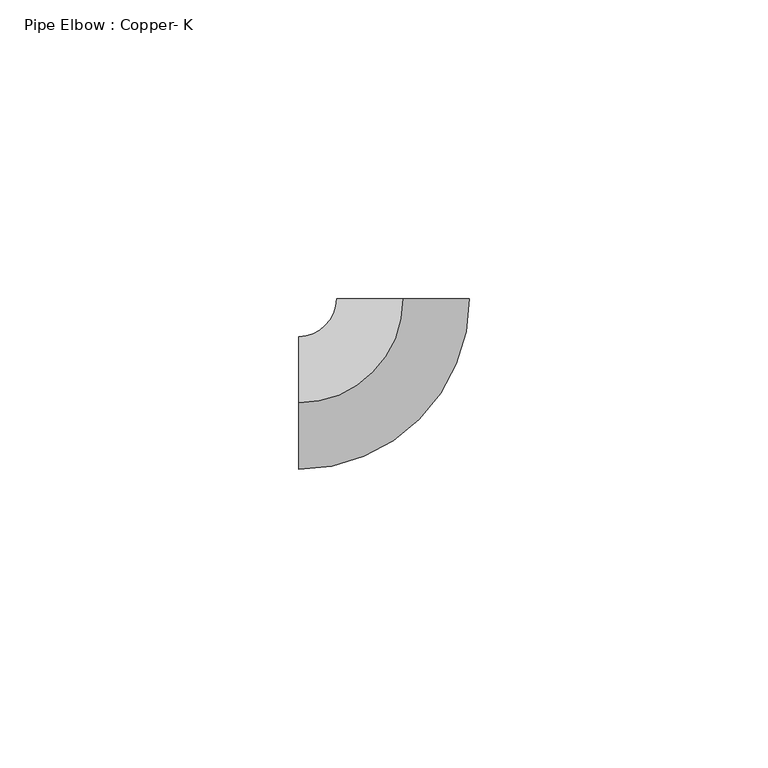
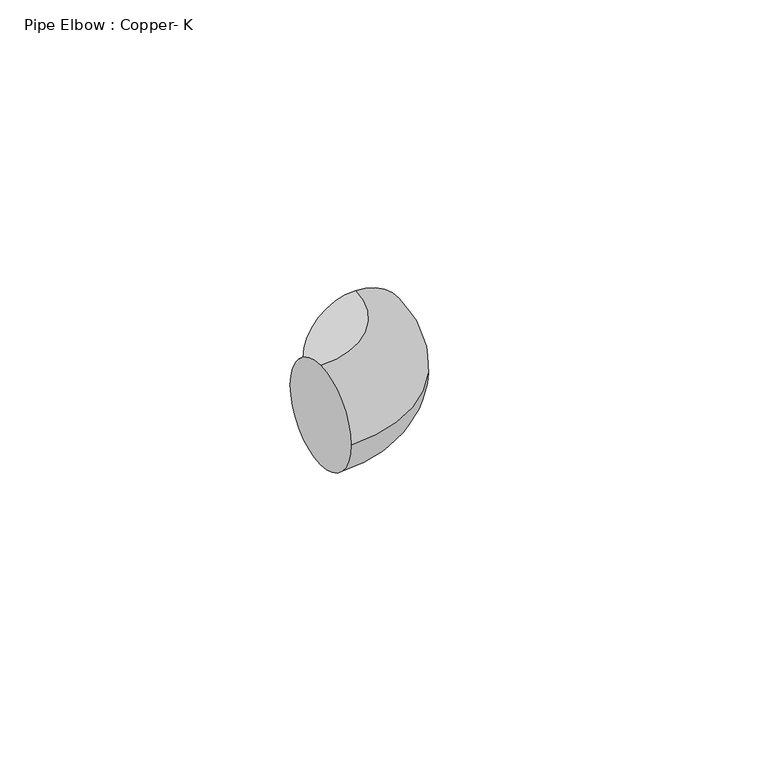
"""IFC4 building model written with IfcOpenShell, lengths in millimetres: pipe fitting geometry, Pipe Elbow : Copper- K."""

from ifc_helpers import new_model, si_unit, point, frame, origin, place, context, project, spatial, circle_curve, ellipse_curve, trimmed, source, transform, mapped, element, save
from ifc_brep_helpers import plane_surface, revolved_surface, advanced_brep


def pipe_elbow_copper_k_4cfe590c(model_context):
    return source(origin(), model_context, "Body", "AdvancedBrep", [
        advanced_brep(
        [(-17.4623735, 0.0, 11.1125), (-17.4623735, 11.1125, 0.0), (-17.4623735, 0.0, -11.1125), (-17.4623735, -11.1125, 0.0), (0.0001265, 17.4623735, 11.1125), (11.1126265, 17.462293, 0.0), (0.0001265, 17.4623735, -11.1125), (-11.1123735, 17.462454, 0.0)],
        [
            (0, 1, circle_curve(frame((-17.4623735, 0.0, 0.0), z_axis=(-1.0, 0.0, 0.0), x_axis=(0.0, 1.0, 0.0)), 11.1125)),
            (1, 2, circle_curve(frame((-17.4623735, 0.0, 0.0), z_axis=(-1.0, 0.0, 0.0), x_axis=(0.0, 1.0, 0.0)), 11.1125)),
            (2, 3, circle_curve(frame((-17.4623735, 0.0, 0.0), z_axis=(-1.0, 0.0, 0.0), x_axis=(0.0, 1.0, 0.0)), 11.1125)),
            (3, 0, circle_curve(frame((-17.4623735, 0.0, 0.0), z_axis=(-1.0, 0.0, 0.0), x_axis=(0.0, 1.0, 0.0)), 11.1125)),
            (4, 5, circle_curve(frame((0.0001265, 17.4623735, 0.0), z_axis=(7.242448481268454e-06, 0.9999999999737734, 0.0), x_axis=(-0.9999999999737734, 7.242448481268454e-06, 0.0)), 11.1125)),
            (5, 6, circle_curve(frame((0.0001265, 17.4623735, 0.0), z_axis=(7.242448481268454e-06, 0.9999999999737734, 0.0), x_axis=(-0.9999999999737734, 7.242448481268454e-06, 0.0)), 11.1125)),
            (6, 7, circle_curve(frame((0.0001265, 17.4623735, 0.0), z_axis=(7.242448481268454e-06, 0.9999999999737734, 0.0), x_axis=(-0.9999999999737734, 7.242448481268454e-06, 0.0)), 11.1125)),
            (7, 4, circle_curve(frame((0.0001265, 17.4623735, 0.0), z_axis=(7.242448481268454e-06, 0.9999999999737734, 0.0), x_axis=(-0.9999999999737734, 7.242448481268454e-06, 0.0)), 11.1125)),
            (7, 1, circle_curve(frame((-17.4623735, 17.4625, 0.0), z_axis=(0.0, 0.0, -1.0), x_axis=(0.0, -1.0, 0.0)), 6.35)),
            (0, 4, circle_curve(frame((-17.4623735, 17.4625, 11.1125), z_axis=(0.0, 0.0, 1.0), x_axis=(0.0, -1.0, 0.0)), 17.4625)),
            (6, 2, circle_curve(frame((-17.4623735, 17.4625, -11.1125), z_axis=(0.0, 0.0, -1.0), x_axis=(0.0, -1.0, 0.0)), 17.4625)),
            (5, 3, circle_curve(frame((-17.4623735, 17.4625, 0.0), z_axis=(0.0, 0.0, -1.0), x_axis=(0.0, -1.0, 0.0)), 28.575)),
        ],
        [
            plane_surface(frame((-17.4623735, 0.0, 0.0), z_axis=(-1.0, 0.0, 0.0), x_axis=(0.0, 0.0, 1.0))),
            plane_surface(frame((0.0001265, 17.4623735, 0.0), z_axis=(7.242448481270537e-06, 0.9999999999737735, 0.0), x_axis=(0.0, 0.0, 1.0))),
            revolved_surface(trimmed(ellipse_curve(frame((-17.4623735, 0.0, 0.0), z_axis=(-1.0, 0.0, 0.0), x_axis=(0.0, 1.0, 0.0)), 11.1125, 11.1125), [point((-17.4623735, 0.0, 11.1125))], [point((-17.4623735, 11.1125, 0.0))], True, "CARTESIAN"), (-17.4623735, 17.4625, 0.0), (0.0, 0.0, 1.0)),
            revolved_surface(trimmed(ellipse_curve(frame((-17.4623735, 0.0, 0.0), z_axis=(-1.0, 0.0, 0.0), x_axis=(0.0, 1.0, 0.0)), 11.1125, 11.1125), [point((-17.4623735, 11.1125, 0.0))], [point((-17.4623735, 0.0, -11.1125))], True, "CARTESIAN"), (-17.4623735, 17.4625, 0.0), (0.0, 0.0, 1.0)),
            revolved_surface(trimmed(ellipse_curve(frame((-17.4623735, 0.0, 0.0), z_axis=(-1.0, 0.0, 0.0), x_axis=(0.0, 1.0, 0.0)), 11.1125, 11.1125), [point((-17.4623735, 0.0, -11.1125))], [point((-17.4623735, -11.1125, 0.0))], True, "CARTESIAN"), (-17.4623735, 17.4625, 0.0), (0.0, 0.0, 1.0)),
            revolved_surface(trimmed(ellipse_curve(frame((-17.4623735, 0.0, 0.0), z_axis=(-1.0, 0.0, 0.0), x_axis=(0.0, 1.0, 0.0)), 11.1125, 11.1125), [point((-17.4623735, -11.1125, 0.0))], [point((-17.4623735, 0.0, 11.1125))], True, "CARTESIAN"), (-17.4623735, 17.4625, 0.0), (0.0, 0.0, 1.0)),
        ],
        [
            (0, [[1, 2, 3, 4]]),
            (1, [[5, 6, 7, 8]]),
            (2, [[9, -1, 10, -8]]),
            (3, [[11, -2, -9, -7]]),
            (4, [[12, -3, -11, -6]]),
            (5, [[-10, -4, -12, -5]]),
        ],
    ),
        advanced_brep(
        [(-17.4623735, 0.0, 11.1125), (-17.4623735, 11.1125, 0.0), (-17.4623735, 0.0, -11.1125), (-17.4623735, -11.1125, 0.0), (0.0001265, 17.4623735, 11.1125), (11.1126265, 17.462293, 0.0), (0.0001265, 17.4623735, -11.1125), (-11.1123735, 17.462454, 0.0)],
        [
            (0, 1, circle_curve(frame((-17.4623735, 0.0, 0.0), z_axis=(-1.0, 0.0, 0.0), x_axis=(0.0, 1.0, 0.0)), 11.1125)),
            (1, 2, circle_curve(frame((-17.4623735, 0.0, 0.0), z_axis=(-1.0, 0.0, 0.0), x_axis=(0.0, 1.0, 0.0)), 11.1125)),
            (2, 3, circle_curve(frame((-17.4623735, 0.0, 0.0), z_axis=(-1.0, 0.0, 0.0), x_axis=(0.0, 1.0, 0.0)), 11.1125)),
            (3, 0, circle_curve(frame((-17.4623735, 0.0, 0.0), z_axis=(-1.0, 0.0, 0.0), x_axis=(0.0, 1.0, 0.0)), 11.1125)),
            (4, 5, circle_curve(frame((0.0001265, 17.4623735, 0.0), z_axis=(7.242448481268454e-06, 0.9999999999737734, 0.0), x_axis=(-0.9999999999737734, 7.242448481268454e-06, 0.0)), 11.1125)),
            (5, 6, circle_curve(frame((0.0001265, 17.4623735, 0.0), z_axis=(7.242448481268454e-06, 0.9999999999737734, 0.0), x_axis=(-0.9999999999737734, 7.242448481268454e-06, 0.0)), 11.1125)),
            (6, 7, circle_curve(frame((0.0001265, 17.4623735, 0.0), z_axis=(7.242448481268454e-06, 0.9999999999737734, 0.0), x_axis=(-0.9999999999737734, 7.242448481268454e-06, 0.0)), 11.1125)),
            (7, 4, circle_curve(frame((0.0001265, 17.4623735, 0.0), z_axis=(7.242448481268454e-06, 0.9999999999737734, 0.0), x_axis=(-0.9999999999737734, 7.242448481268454e-06, 0.0)), 11.1125)),
            (7, 1, circle_curve(frame((-17.4623735, 17.4625, 0.0), z_axis=(0.0, 0.0, -1.0), x_axis=(0.0, -1.0, 0.0)), 6.35)),
            (0, 4, circle_curve(frame((-17.4623735, 17.4625, 11.1125), z_axis=(0.0, 0.0, 1.0), x_axis=(0.0, -1.0, 0.0)), 17.4625)),
            (6, 2, circle_curve(frame((-17.4623735, 17.4625, -11.1125), z_axis=(0.0, 0.0, -1.0), x_axis=(0.0, -1.0, 0.0)), 17.4625)),
            (5, 3, circle_curve(frame((-17.4623735, 17.4625, 0.0), z_axis=(0.0, 0.0, -1.0), x_axis=(0.0, -1.0, 0.0)), 28.575)),
        ],
        [
            plane_surface(frame((-17.4623735, 0.0, 0.0), z_axis=(-1.0, 0.0, 0.0), x_axis=(0.0, 0.0, 1.0))),
            plane_surface(frame((0.0001265, 17.4623735, 0.0), z_axis=(7.242448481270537e-06, 0.9999999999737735, 0.0), x_axis=(0.0, 0.0, 1.0))),
            revolved_surface(trimmed(ellipse_curve(frame((-17.4623735, 0.0, 0.0), z_axis=(-1.0, 0.0, 0.0), x_axis=(0.0, 1.0, 0.0)), 11.1125, 11.1125), [point((-17.4623735, 0.0, 11.1125))], [point((-17.4623735, 11.1125, 0.0))], True, "CARTESIAN"), (-17.4623735, 17.4625, 0.0), (0.0, 0.0, 1.0)),
            revolved_surface(trimmed(ellipse_curve(frame((-17.4623735, 0.0, 0.0), z_axis=(-1.0, 0.0, 0.0), x_axis=(0.0, 1.0, 0.0)), 11.1125, 11.1125), [point((-17.4623735, 11.1125, 0.0))], [point((-17.4623735, 0.0, -11.1125))], True, "CARTESIAN"), (-17.4623735, 17.4625, 0.0), (0.0, 0.0, 1.0)),
            revolved_surface(trimmed(ellipse_curve(frame((-17.4623735, 0.0, 0.0), z_axis=(-1.0, 0.0, 0.0), x_axis=(0.0, 1.0, 0.0)), 11.1125, 11.1125), [point((-17.4623735, 0.0, -11.1125))], [point((-17.4623735, -11.1125, 0.0))], True, "CARTESIAN"), (-17.4623735, 17.4625, 0.0), (0.0, 0.0, 1.0)),
            revolved_surface(trimmed(ellipse_curve(frame((-17.4623735, 0.0, 0.0), z_axis=(-1.0, 0.0, 0.0), x_axis=(0.0, 1.0, 0.0)), 11.1125, 11.1125), [point((-17.4623735, -11.1125, 0.0))], [point((-17.4623735, 0.0, 11.1125))], True, "CARTESIAN"), (-17.4623735, 17.4625, 0.0), (0.0, 0.0, 1.0)),
        ],
        [
            (0, [[1, 2, 3, 4]]),
            (1, [[5, 6, 7, 8]]),
            (2, [[9, -1, 10, -8]]),
            (3, [[11, -2, -9, -7]]),
            (4, [[12, -3, -11, -6]]),
            (5, [[-10, -4, -12, -5]]),
        ],
    ),
    ])


if __name__ == "__main__":
    model = new_model("IFC4")
    model_context = context("Model", 3, world=origin())
    ifc_project = project(units=[si_unit("LENGTHUNIT", "METRE", prefix="MILLI")], contexts=[model_context])
    site = spatial("IfcSite", under=ifc_project)
    building = spatial("IfcBuilding", under=site)
    placement = place(None, origin())
    pipe_elbow_copper_k_shape = pipe_elbow_copper_k_4cfe590c(model_context)
    element("IfcPipeFitting", 1, ObjectType="Pipe Elbow : Copper- K", at=placement, inside=building, context=model_context, shape_type="MappedRepresentation", body=[
        mapped(pipe_elbow_copper_k_shape, transform((0.0, 0.0, 0.0), x_axis=(1.0, 0.0, 0.0), y_axis=(0.0, 1.0, 0.0), z_axis=(0.0, 0.0, 1.0))),
    ])
    save(model, "model.ifc")
